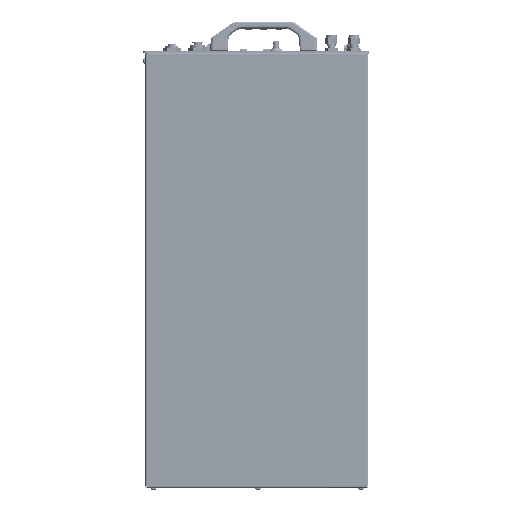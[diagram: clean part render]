
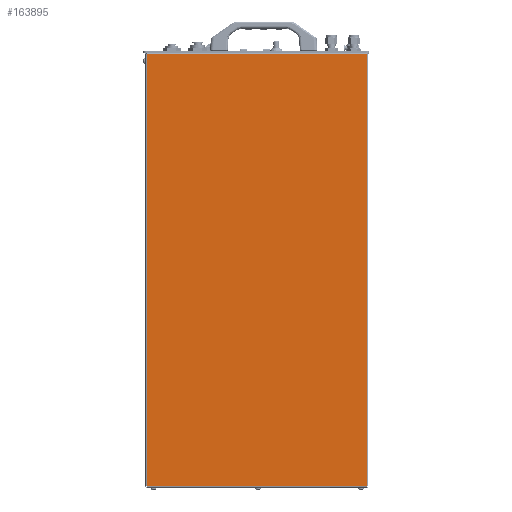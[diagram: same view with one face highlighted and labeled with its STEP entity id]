
A CAD part, left-side view. The second image highlights one B-rep face of the part: STEP entity #163895.
In plain terms, the highlighted planar face has unit normal (-1, 0, 0) as drawn and (1, 0, 0) by its records, which use the part's own axes.
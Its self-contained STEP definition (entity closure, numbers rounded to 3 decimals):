
#13871=PLANE('',#177525);
#22602=FACE_OUTER_BOUND('',#32435,.T.);
#32435=EDGE_LOOP('',(#152406,#152407,#152408,#152409,#152410,#152411));
#47822=LINE('',#311435,#63216);
#47828=LINE('',#311462,#63222);
#47829=LINE('',#311464,#63223);
#47830=LINE('',#311466,#63224);
#47831=LINE('',#311468,#63225);
#47832=LINE('',#311469,#63226);
#63216=VECTOR('',#218316,10.);
#63222=VECTOR('',#218342,10.);
#63223=VECTOR('',#218343,10.);
#63224=VECTOR('',#218344,10.);
#63225=VECTOR('',#218345,10.);
#63226=VECTOR('',#218346,10.);
#82812=VERTEX_POINT('',#311428);
#82813=VERTEX_POINT('',#311432);
#82817=VERTEX_POINT('',#311461);
#82818=VERTEX_POINT('',#311463);
#82819=VERTEX_POINT('',#311465);
#82820=VERTEX_POINT('',#311467);
#106045=EDGE_CURVE('',#82813,#82812,#47822,.T.);
#106055=EDGE_CURVE('',#82812,#82817,#47828,.T.);
#106056=EDGE_CURVE('',#82817,#82818,#47829,.T.);
#106057=EDGE_CURVE('',#82818,#82819,#47830,.T.);
#106058=EDGE_CURVE('',#82819,#82820,#47831,.T.);
#106059=EDGE_CURVE('',#82820,#82813,#47832,.T.);
#152406=ORIENTED_EDGE('',*,*,#106045,.T.);
#152407=ORIENTED_EDGE('',*,*,#106055,.T.);
#152408=ORIENTED_EDGE('',*,*,#106056,.T.);
#152409=ORIENTED_EDGE('',*,*,#106057,.T.);
#152410=ORIENTED_EDGE('',*,*,#106058,.T.);
#152411=ORIENTED_EDGE('',*,*,#106059,.T.);
#163895=ADVANCED_FACE('',(#22602),#13871,.F.);
#177525=AXIS2_PLACEMENT_3D('',#311460,#218340,#218341);
#218316=DIRECTION('',(0.,0.,-1.));
#218340=DIRECTION('center_axis',(-1.,0.,0.));
#218341=DIRECTION('ref_axis',(0.,0.,
-1.));
#218342=DIRECTION('',(0.,1.,0.));
#218343=DIRECTION('',(0.,0.,-1.));
#218344=DIRECTION('',(0.,1.,0.));
#218345=DIRECTION('',(0.,0.,1.));
#218346=DIRECTION('',(0.,-1.,0.));
#311428=CARTESIAN_POINT('',(219.,-300.75,11.));
#311432=CARTESIAN_POINT('',(219.,-300.75,589.));
#311435=CARTESIAN_POINT('',(219.,-300.75,442.));
#311460=CARTESIAN_POINT('Origin',(219.,218.262,295.));
#311461=CARTESIAN_POINT('',(219.,-300.,11.));
#311462=CARTESIAN_POINT('',(219.,-41.869,11.));
#311463=CARTESIAN_POINT('',(219.,-300.,1.25));
#311464=CARTESIAN_POINT('',(219.,-300.,150.079));
#311465=CARTESIAN_POINT('',(219.,-1.,1.25));
#311466=CARTESIAN_POINT('',(219.,-41.869,1.25));
#311467=CARTESIAN_POINT('',(219.,-1.,589.));
#311468=CARTESIAN_POINT('',(219.,-1.,295.));
#311469=CARTESIAN_POINT('',(219.,108.631,589.));
